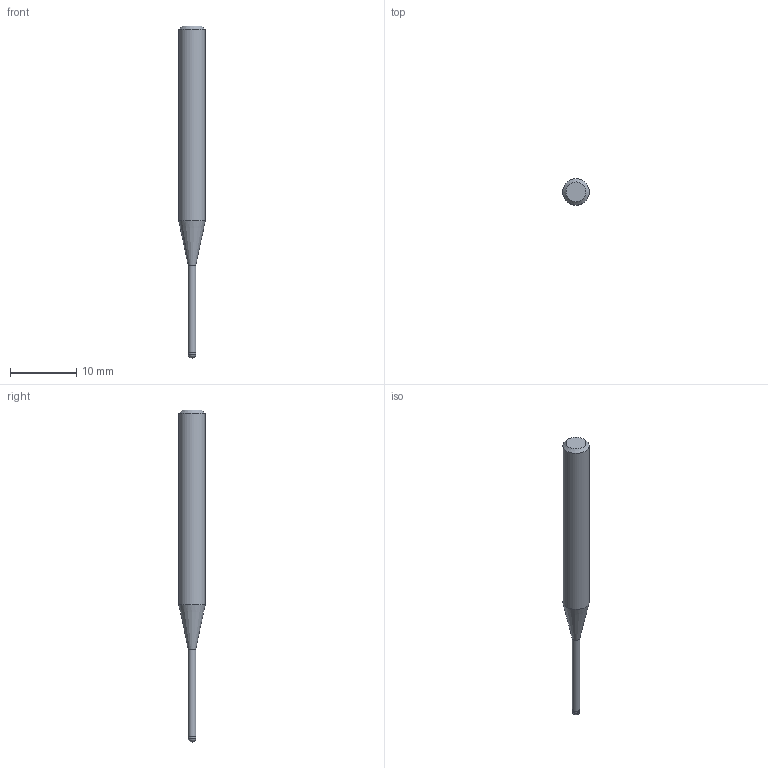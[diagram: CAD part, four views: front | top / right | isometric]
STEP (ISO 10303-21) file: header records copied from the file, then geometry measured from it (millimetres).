
FILE_DESCRIPTION((''),'2;1');
FILE_NAME('C:\Users\nsx150\AppData\Local\Temp\Mastercam 2021\3SYKECWX22\TEMP.step','2021-04-22T10:02:57',(''),(''),'STEP Write','Mastercam 2021 ... CNC Software, Inc.','');
FILE_SCHEMA(('AUTOMOTIVE_DESIGN'));
Length unit declared in the file: millimetre
Products named in the file (1): None
Bounding box: 4 x 4 x 50 mm (x, y, z)
Volume: 419.6 mm3; surface area: 485 mm2
Topology: 2 solids, 2 shells, 9 faces, 14 edges, 8 vertices
Faces by surface type: plane 3, cylinder 3, cone 2, sphere 1
Full cylindrical faces by diameter (mm): 1.15 x1, 1.2 x1, 4 x1
Entity records: 211 total; most frequent: DIRECTION 36, CARTESIAN_POINT 25, AXIS2_PLACEMENT_3D 18, ORIENTED_EDGE 14, EDGE_LOOP 14, STYLED_ITEM 12, ADVANCED_FACE 9, FACE_BOUND 8
